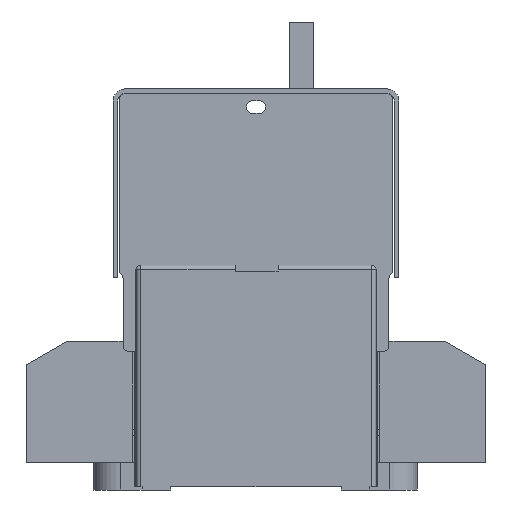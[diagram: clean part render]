
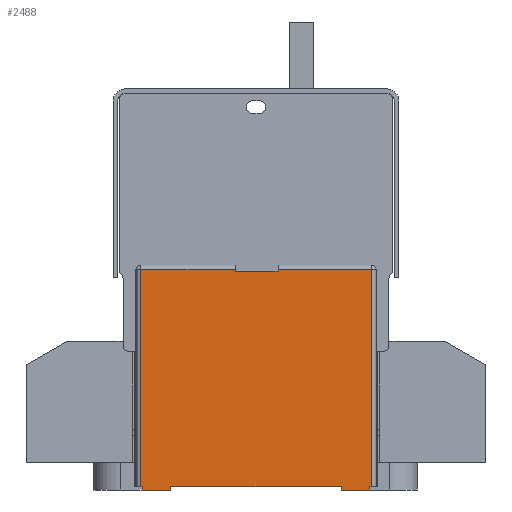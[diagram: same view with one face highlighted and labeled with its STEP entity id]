
A CAD part, left-side view. The second image highlights one B-rep face of the part: STEP entity #2488.
In plain terms, the highlighted planar face has unit normal (-1, 0, 0).
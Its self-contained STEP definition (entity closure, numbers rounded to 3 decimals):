
#2488=ADVANCED_FACE('',(#4320),#3264,.F.);
#3264=PLANE('',#24335);
#4320=FACE_OUTER_BOUND('',#5629,.T.);
#5629=EDGE_LOOP('',(#11574,#11575,#11576,#11577,#11578,#11579,#11580,#11581,
#11582,#11583,#11584,#11585,#11586,#11587,#11588,#11589));
#11574=ORIENTED_EDGE('',*,*,#17502,.F.);
#11575=ORIENTED_EDGE('',*,*,#17297,.T.);
#11576=ORIENTED_EDGE('',*,*,#17121,.T.);
#11577=ORIENTED_EDGE('',*,*,#17504,.F.);
#11578=ORIENTED_EDGE('',*,*,#17124,.T.);
#11579=ORIENTED_EDGE('',*,*,#17257,.T.);
#11580=ORIENTED_EDGE('',*,*,#17505,.T.);
#11581=ORIENTED_EDGE('',*,*,#17506,.T.);
#11582=ORIENTED_EDGE('',*,*,#17507,.F.);
#11583=ORIENTED_EDGE('',*,*,#17338,.F.);
#11584=ORIENTED_EDGE('',*,*,#17343,.T.);
#11585=ORIENTED_EDGE('',*,*,#17508,.T.);
#11586=ORIENTED_EDGE('',*,*,#17351,.F.);
#11587=ORIENTED_EDGE('',*,*,#17345,.F.);
#11588=ORIENTED_EDGE('',*,*,#17509,.T.);
#11589=ORIENTED_EDGE('',*,*,#17510,.T.);
#14103=VERTEX_POINT('',#36349);
#14104=VERTEX_POINT('',#36351);
#14106=VERTEX_POINT('',#36357);
#14107=VERTEX_POINT('',#36358);
#14195=VERTEX_POINT('',#36663);
#14196=VERTEX_POINT('',#36667);
#14236=VERTEX_POINT('',#36832);
#14237=VERTEX_POINT('',#36833);
#14241=VERTEX_POINT('',#36842);
#14242=VERTEX_POINT('',#36847);
#14243=VERTEX_POINT('',#36848);
#14246=VERTEX_POINT('',#36856);
#14337=VERTEX_POINT('',#37145);
#14338=VERTEX_POINT('',#37150);
#14339=VERTEX_POINT('',#37152);
#14340=VERTEX_POINT('',#37156);
#17121=EDGE_CURVE('',#14104,#14103,#19724,.T.);
#17124=EDGE_CURVE('',#14106,#14107,#19726,.T.);
#17257=EDGE_CURVE('',#14107,#14196,#19796,.T.);
#17297=EDGE_CURVE('',#14195,#14104,#19812,.T.);
#17338=EDGE_CURVE('',#14236,#14237,#19847,.T.);
#17343=EDGE_CURVE('',#14236,#14241,#19852,.T.);
#17345=EDGE_CURVE('',#14242,#14243,#19854,.T.);
#17351=EDGE_CURVE('',#14243,#14246,#19860,.T.);
#17502=EDGE_CURVE('',#14195,#14337,#19997,.T.);
#17504=EDGE_CURVE('',#14106,#14103,#19998,.T.);
#17505=EDGE_CURVE('',#14196,#14338,#19999,.T.);
#17506=EDGE_CURVE('',#14338,#14339,#20000,.T.);
#17507=EDGE_CURVE('',#14237,#14339,#20001,.T.);
#17508=EDGE_CURVE('',#14241,#14246,#20002,.T.);
#17509=EDGE_CURVE('',#14242,#14340,#20003,.T.);
#17510=EDGE_CURVE('',#14340,#14337,#20004,.T.);
#19724=LINE('',#36350,#22204);
#19726=LINE('',#36356,#22206);
#19796=LINE('',#36668,#22276);
#19812=LINE('',#36748,#22292);
#19847=LINE('',#36831,#22327);
#19852=LINE('',#36843,#22332);
#19854=LINE('',#36846,#22334);
#19860=LINE('',#36859,#22340);
#19997=LINE('',#37144,#22477);
#19998=LINE('',#37148,#22478);
#19999=LINE('',#37149,#22479);
#20000=LINE('',#37151,#22480);
#20001=LINE('',#37153,#22481);
#20002=LINE('',#37154,#22482);
#20003=LINE('',#37155,#22483);
#20004=LINE('',#37157,#22484);
#22204=VECTOR('',#29482,1.);
#22206=VECTOR('',#29488,1.);
#22276=VECTOR('',#29776,1.);
#22292=VECTOR('',#29888,1.);
#22327=VECTOR('',#29973,1.);
#22332=VECTOR('',#29980,1.);
#22334=VECTOR('',#29984,1.);
#22340=VECTOR('',#29992,1.);
#22477=VECTOR('',#30247,1.);
#22478=VECTOR('',#30252,1.);
#22479=VECTOR('',#30253,1.);
#22480=VECTOR('',#30254,1.);
#22481=VECTOR('',#30255,1.);
#22482=VECTOR('',#30256,1.);
#22483=VECTOR('',#30257,1.);
#22484=VECTOR('',#30258,1.);
#24335=AXIS2_PLACEMENT_3D('',#37158,#30259,#30260);
#29482=DIRECTION('',(0.,0.,-1.));
#29488=DIRECTION('',(0.,0.,1.));
#29776=DIRECTION('',(0.,1.,0.));
#29888=DIRECTION('',(0.,1.,0.));
#29973=DIRECTION('',(0.,1.,0.));
#29980=DIRECTION('',(0.,0.,1.));
#29984=DIRECTION('',(0.,1.,0.));
#29992=DIRECTION('',(0.,0.,1.));
#30247=DIRECTION('',(0.,0.,-1.));
#30252=DIRECTION('',(0.,-1.,0.));
#30253=DIRECTION('',(0.,0.,-1.));
#30254=DIRECTION('',(0.,-1.,0.));
#30255=DIRECTION('',(0.,0.,1.));
#30256=DIRECTION('',(0.,-1.,0.));
#30257=DIRECTION('',(0.,0.,1.));
#30258=DIRECTION('',(0.,-1.,0.));
#30259=DIRECTION('',(1.,0.,0.));
#30260=DIRECTION('',(0.,0.,-1.));
#36349=CARTESIAN_POINT('',(-69.,-31.985,67.));
#36350=CARTESIAN_POINT('',(-69.,-31.985,69.1));
#36351=CARTESIAN_POINT('',(-69.,-31.985,67.6));
#36356=CARTESIAN_POINT('',(-69.,-17.985,69.1));
#36357=CARTESIAN_POINT('',(-69.,-17.985,67.));
#36358=CARTESIAN_POINT('',(-69.,-17.985,67.6));
#36663=CARTESIAN_POINT('',(-69.,-62.735,67.6));
#36667=CARTESIAN_POINT('',(-69.,13.265,67.6));
#36668=CARTESIAN_POINT('',(-69.,13.265,67.6));
#36748=CARTESIAN_POINT('',(-69.,13.265,67.6));
#36831=CARTESIAN_POINT('',(-69.,3.265,-4.9));
#36832=CARTESIAN_POINT('',(-69.,3.265,-4.9));
#36833=CARTESIAN_POINT('',(-69.,12.765,-4.9));
#36842=CARTESIAN_POINT('',(-69.,3.265,-3.9));
#36843=CARTESIAN_POINT('',(-69.,3.265,-5.9));
#36846=CARTESIAN_POINT('',(-69.,-62.235,-4.9));
#36847=CARTESIAN_POINT('',(-69.,-62.235,-4.9));
#36848=CARTESIAN_POINT('',(-69.,-52.735,-4.9));
#36856=CARTESIAN_POINT('',(-69.,-52.735,-3.9));
#36859=CARTESIAN_POINT('',(-69.,-52.735,-5.9));
#37144=CARTESIAN_POINT('',(-69.,-62.735,69.1));
#37145=CARTESIAN_POINT('',(-69.,-62.735,-3.9));
#37148=CARTESIAN_POINT('',(-69.,12.765,67.));
#37149=CARTESIAN_POINT('',(-69.,13.265,69.1));
#37150=CARTESIAN_POINT('',(-69.,13.265,-3.9));
#37151=CARTESIAN_POINT('',(-69.,-62.235,-3.9));
#37152=CARTESIAN_POINT('',(-69.,12.765,-3.9));
#37153=CARTESIAN_POINT('',(-69.,12.765,-5.9));
#37154=CARTESIAN_POINT('',(-69.,-62.235,-3.9));
#37155=CARTESIAN_POINT('',(-69.,-62.235,-5.9));
#37156=CARTESIAN_POINT('',(-69.,-62.235,-3.9));
#37157=CARTESIAN_POINT('',(-69.,-62.235,-3.9));
#37158=CARTESIAN_POINT('',(-69.,-62.235,69.1));
